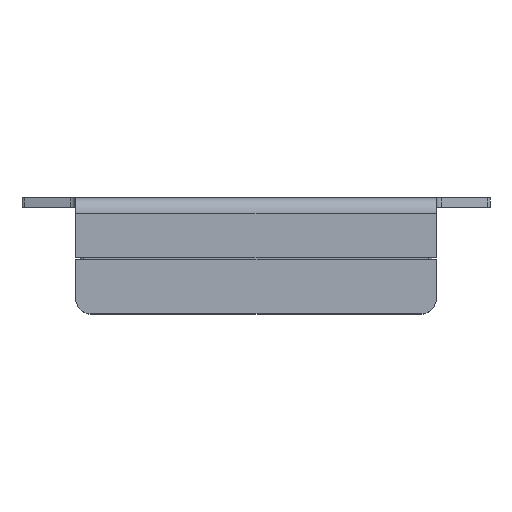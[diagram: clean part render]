
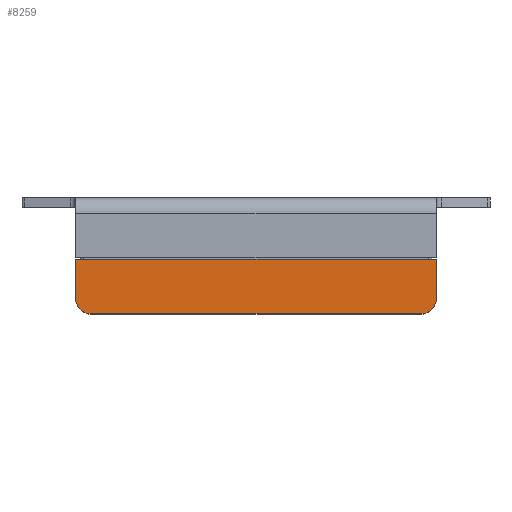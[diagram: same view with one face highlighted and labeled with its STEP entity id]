
A CAD part, top view. The second image highlights one B-rep face of the part: STEP entity #8259.
In plain terms, the highlighted planar face has unit normal (0, 0, 1).
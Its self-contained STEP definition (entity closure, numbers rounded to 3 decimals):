
#223 = ORIENTED_EDGE ( 'NONE', *, *, #1842, .T. ) ;
#226 = CARTESIAN_POINT ( 'NONE',  ( -28., 0., 15. ) ) ;
#340 = VERTEX_POINT ( 'NONE', #1054 ) ;
#357 = ORIENTED_EDGE ( 'NONE', *, *, #6589, .T. ) ;
#835 = DIRECTION ( 'NONE',  ( 0., 0., 1. ) ) ;
#922 = CARTESIAN_POINT ( 'NONE',  ( -25.5, 2.5, 15. ) ) ;
#1054 = CARTESIAN_POINT ( 'NONE',  ( -25.5, 0., 15. ) ) ;
#1254 = VECTOR ( 'NONE', #6011, 1000. ) ;
#1427 = LINE ( 'NONE', #226, #3917 ) ;
#1842 = EDGE_CURVE ( 'NONE', #7087, #6790, #7214, .T. ) ;
#1850 = ORIENTED_EDGE ( 'NONE', *, *, #7729, .T. ) ;
#1867 = VECTOR ( 'NONE', #5710, 1000. ) ;
#1889 = AXIS2_PLACEMENT_3D ( 'NONE', #6697, #835, #7387 ) ;
#2036 = DIRECTION ( 'NONE',  ( -1., 0., 0. ) ) ;
#2145 = PLANE ( 'NONE',  #2840 ) ;
#2636 = VERTEX_POINT ( 'NONE', #3801 ) ;
#2788 = FACE_OUTER_BOUND ( 'NONE', #4973, .T. ) ;
#2840 = AXIS2_PLACEMENT_3D ( 'NONE', #3307, #4757, #7379 ) ;
#2980 = CIRCLE ( 'NONE', #7779, 2.5 ) ;
#3307 = CARTESIAN_POINT ( 'NONE',  ( -28., 8.5, 15. ) ) ;
#3563 = EDGE_CURVE ( 'NONE', #7087, #4966, #4668, .T. ) ;
#3589 = CARTESIAN_POINT ( 'NONE',  ( -28., 8.5, 15. ) ) ;
#3737 = LINE ( 'NONE', #7122, #1867 ) ;
#3801 = CARTESIAN_POINT ( 'NONE',  ( 25.5, 0., 15. ) ) ;
#3917 = VECTOR ( 'NONE', #5364, 1000. ) ;
#3924 = CARTESIAN_POINT ( 'NONE',  ( 28., 2.5, 15. ) ) ;
#4123 = VECTOR ( 'NONE', #4626, 1000. ) ;
#4626 = DIRECTION ( 'NONE',  ( 1., 0., 0. ) ) ;
#4668 = LINE ( 'NONE', #6601, #4123 ) ;
#4757 = DIRECTION ( 'NONE',  ( 0., 0., -1. ) ) ;
#4966 = VERTEX_POINT ( 'NONE', #7378 ) ;
#4973 = EDGE_LOOP ( 'NONE', ( #8108, #357, #7624, #6954, #223, #1850 ) ) ;
#5364 = DIRECTION ( 'NONE',  ( 1., 0., 0. ) ) ;
#5673 = VERTEX_POINT ( 'NONE', #3924 ) ;
#5710 = DIRECTION ( 'NONE',  ( 0., -1., 0. ) ) ;
#6011 = DIRECTION ( 'NONE',  ( 0., -1., 0. ) ) ;
#6132 = CIRCLE ( 'NONE', #1889, 2.5 ) ;
#6589 = EDGE_CURVE ( 'NONE', #2636, #5673, #6132, .T. ) ;
#6601 = CARTESIAN_POINT ( 'NONE',  ( -28., 8.5, 15. ) ) ;
#6697 = CARTESIAN_POINT ( 'NONE',  ( 25.5, 2.5, 15. ) ) ;
#6783 = DIRECTION ( 'NONE',  ( 0., 0., 1. ) ) ;
#6790 = VERTEX_POINT ( 'NONE', #7733 ) ;
#6954 = ORIENTED_EDGE ( 'NONE', *, *, #3563, .F. ) ;
#7087 = VERTEX_POINT ( 'NONE', #3589 ) ;
#7122 = CARTESIAN_POINT ( 'NONE',  ( 28., 8.5, 15. ) ) ;
#7214 = LINE ( 'NONE', #7340, #1254 ) ;
#7340 = CARTESIAN_POINT ( 'NONE',  ( -28., 8.5, 15. ) ) ;
#7378 = CARTESIAN_POINT ( 'NONE',  ( 28., 8.5, 15. ) ) ;
#7379 = DIRECTION ( 'NONE',  ( -1., 0., 0. ) ) ;
#7387 = DIRECTION ( 'NONE',  ( -1., 0., 0. ) ) ;
#7624 = ORIENTED_EDGE ( 'NONE', *, *, #8024, .F. ) ;
#7729 = EDGE_CURVE ( 'NONE', #6790, #340, #2980, .T. ) ;
#7733 = CARTESIAN_POINT ( 'NONE',  ( -28., 2.5, 15. ) ) ;
#7779 = AXIS2_PLACEMENT_3D ( 'NONE', #922, #6783, #2036 ) ;
#8024 = EDGE_CURVE ( 'NONE', #4966, #5673, #3737, .T. ) ;
#8108 = ORIENTED_EDGE ( 'NONE', *, *, #8151, .T. ) ;
#8151 = EDGE_CURVE ( 'NONE', #340, #2636, #1427, .T. ) ;
#8259 = ADVANCED_FACE ( 'NONE', ( #2788 ), #2145, .F. ) ;
